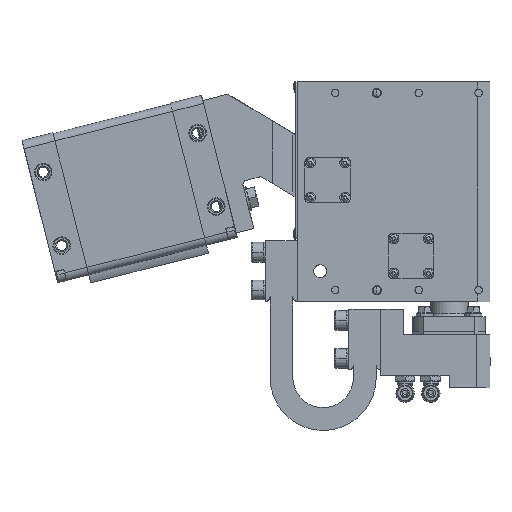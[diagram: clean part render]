
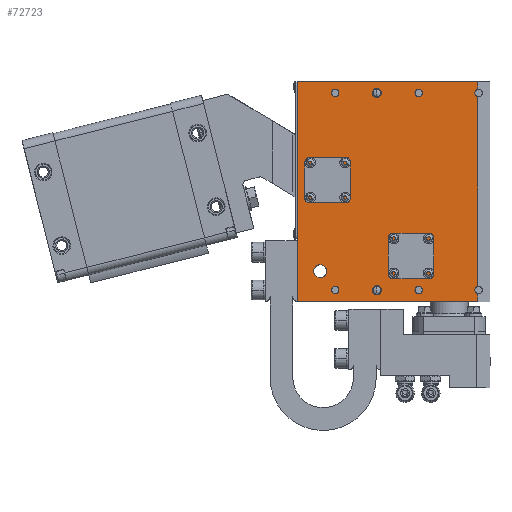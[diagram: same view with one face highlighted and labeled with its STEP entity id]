
A CAD part, front view. The second image highlights one B-rep face of the part: STEP entity #72723.
In plain terms, the highlighted planar face has unit normal (0, -1, 0).
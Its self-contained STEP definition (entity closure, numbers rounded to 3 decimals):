
#72495=AXIS2_PLACEMENT_3D('Circle Axis2P3D',#72493,#72494,$) ;
#72514=AXIS2_PLACEMENT_3D('Circle Axis2P3D',#72512,#72513,$) ;
#72527=AXIS2_PLACEMENT_3D('Plane Axis2P3D',#72524,#72525,#72526) ;
#72540=AXIS2_PLACEMENT_3D('Circle Axis2P3D',#72538,#72539,$) ;
#72547=AXIS2_PLACEMENT_3D('Circle Axis2P3D',#72545,#72546,$) ;
#72589=AXIS2_PLACEMENT_3D('Circle Axis2P3D',#72587,#72588,$) ;
#72596=AXIS2_PLACEMENT_3D('Circle Axis2P3D',#72594,#72595,$) ;
#72617=AXIS2_PLACEMENT_3D('Circle Axis2P3D',#72615,#72616,$) ;
#72626=AXIS2_PLACEMENT_3D('Circle Axis2P3D',#72624,#72625,$) ;
#72635=AXIS2_PLACEMENT_3D('Circle Axis2P3D',#72633,#72634,$) ;
#72644=AXIS2_PLACEMENT_3D('Circle Axis2P3D',#72642,#72643,$) ;
#72653=AXIS2_PLACEMENT_3D('Circle Axis2P3D',#72651,#72652,$) ;
#72662=AXIS2_PLACEMENT_3D('Circle Axis2P3D',#72660,#72661,$) ;
#72671=AXIS2_PLACEMENT_3D('Circle Axis2P3D',#72669,#72670,$) ;
#72680=AXIS2_PLACEMENT_3D('Circle Axis2P3D',#72678,#72679,$) ;
#72689=AXIS2_PLACEMENT_3D('Circle Axis2P3D',#72687,#72688,$) ;
#72698=AXIS2_PLACEMENT_3D('Circle Axis2P3D',#72696,#72697,$) ;
#72707=AXIS2_PLACEMENT_3D('Circle Axis2P3D',#72705,#72706,$) ;
#72716=AXIS2_PLACEMENT_3D('Circle Axis2P3D',#72714,#72715,$) ;
#72490=CARTESIAN_POINT('Vertex',(-81.24,-20.,17.946)) ;
#72493=CARTESIAN_POINT('Axis2P3D Location',(-85.,-20.,20.)) ;
#72497=CARTESIAN_POINT('Vertex',(-88.76,-20.,22.054)) ;
#72512=CARTESIAN_POINT('Axis2P3D Location',(-85.,-20.,20.)) ;
#72524=CARTESIAN_POINT('Axis2P3D Location',(0.,-20.,0.)) ;
#72529=CARTESIAN_POINT('Line Origine',(19.,-20.,72.5)) ;
#72533=CARTESIAN_POINT('Vertex',(19.,-20.,9.907)) ;
#72535=CARTESIAN_POINT('Vertex',(19.,-20.,135.093)) ;
#72538=CARTESIAN_POINT('Axis2P3D Location',(19.5,-20.,137.5)) ;
#72542=CARTESIAN_POINT('Vertex',(17.342,-20.,136.321)) ;
#72545=CARTESIAN_POINT('Axis2P3D Location',(19.5,-20.,137.5)) ;
#72549=CARTESIAN_POINT('Vertex',(19.,-20.,139.907)) ;
#72552=CARTESIAN_POINT('Line Origine',(19.,-20.,142.454)) ;
#72556=CARTESIAN_POINT('Vertex',(19.,-20.,145.)) ;
#72559=CARTESIAN_POINT('Line Origine',(-40.5,-20.,145.)) ;
#72563=CARTESIAN_POINT('Vertex',(-100.,-20.,145.)) ;
#72566=CARTESIAN_POINT('Line Origine',(-100.,-20.,72.5)) ;
#72570=CARTESIAN_POINT('Vertex',(-100.,-20.,0.)) ;
#72573=CARTESIAN_POINT('Line Origine',(-40.5,-20.,0.)) ;
#72577=CARTESIAN_POINT('Vertex',(19.,-20.,0.)) ;
#72580=CARTESIAN_POINT('Line Origine',(19.,-20.,2.546)) ;
#72584=CARTESIAN_POINT('Vertex',(19.,-20.,5.093)) ;
#72587=CARTESIAN_POINT('Axis2P3D Location',(19.5,-20.,7.5)) ;
#72591=CARTESIAN_POINT('Vertex',(17.342,-20.,6.321)) ;
#72594=CARTESIAN_POINT('Axis2P3D Location',(19.5,-20.,7.5)) ;
#72615=CARTESIAN_POINT('Axis2P3D Location',(-75.,-20.,7.5)) ;
#72619=CARTESIAN_POINT('Vertex',(-72.842,-20.,8.679)) ;
#72621=CARTESIAN_POINT('Vertex',(-77.158,-20.,6.321)) ;
#72624=CARTESIAN_POINT('Axis2P3D Location',(-75.,-20.,7.5)) ;
#72633=CARTESIAN_POINT('Axis2P3D Location',(-47.5,-20.,7.5)) ;
#72637=CARTESIAN_POINT('Vertex',(-44.867,-20.,8.938)) ;
#72639=CARTESIAN_POINT('Vertex',(-50.133,-20.,6.062)) ;
#72642=CARTESIAN_POINT('Axis2P3D Location',(-47.5,-20.,7.5)) ;
#72651=CARTESIAN_POINT('Axis2P3D Location',(-20.,-20.,7.5)) ;
#72655=CARTESIAN_POINT('Vertex',(-17.842,-20.,8.679)) ;
#72657=CARTESIAN_POINT('Vertex',(-22.158,-20.,6.321)) ;
#72660=CARTESIAN_POINT('Axis2P3D Location',(-20.,-20.,7.5)) ;
#72669=CARTESIAN_POINT('Axis2P3D Location',(-75.,-20.,137.5)) ;
#72673=CARTESIAN_POINT('Vertex',(-72.842,-20.,138.679)) ;
#72675=CARTESIAN_POINT('Vertex',(-77.158,-20.,136.321)) ;
#72678=CARTESIAN_POINT('Axis2P3D Location',(-75.,-20.,137.5)) ;
#72687=CARTESIAN_POINT('Axis2P3D Location',(-47.5,-20.,137.5)) ;
#72691=CARTESIAN_POINT('Vertex',(-44.867,-20.,138.938)) ;
#72693=CARTESIAN_POINT('Vertex',(-50.133,-20.,136.062)) ;
#72696=CARTESIAN_POINT('Axis2P3D Location',(-47.5,-20.,137.5)) ;
#72705=CARTESIAN_POINT('Axis2P3D Location',(-20.,-20.,137.5)) ;
#72709=CARTESIAN_POINT('Vertex',(-17.842,-20.,138.679)) ;
#72711=CARTESIAN_POINT('Vertex',(-22.158,-20.,136.321)) ;
#72714=CARTESIAN_POINT('Axis2P3D Location',(-20.,-20.,137.5)) ;
#72494=DIRECTION('Axis2P3D Direction',(0.,1.,0.)) ;
#72513=DIRECTION('Axis2P3D Direction',(0.,1.,0.)) ;
#72525=DIRECTION('Axis2P3D Direction',(0.,-1.,0.)) ;
#72526=DIRECTION('Axis2P3D XDirection',(1.,0.,0.)) ;
#72530=DIRECTION('Vector Direction',(0.,0.,1.)) ;
#72539=DIRECTION('Axis2P3D Direction',(0.,-1.,0.)) ;
#72546=DIRECTION('Axis2P3D Direction',(0.,-1.,0.)) ;
#72553=DIRECTION('Vector Direction',(0.,0.,1.)) ;
#72560=DIRECTION('Vector Direction',(-1.,0.,0.)) ;
#72567=DIRECTION('Vector Direction',(0.,0.,1.)) ;
#72574=DIRECTION('Vector Direction',(1.,0.,0.)) ;
#72581=DIRECTION('Vector Direction',(0.,0.,1.)) ;
#72588=DIRECTION('Axis2P3D Direction',(0.,-1.,0.)) ;
#72595=DIRECTION('Axis2P3D Direction',(0.,-1.,0.)) ;
#72616=DIRECTION('Axis2P3D Direction',(0.,-1.,0.)) ;
#72625=DIRECTION('Axis2P3D Direction',(0.,-1.,0.)) ;
#72634=DIRECTION('Axis2P3D Direction',(0.,-1.,0.)) ;
#72643=DIRECTION('Axis2P3D Direction',(0.,-1.,0.)) ;
#72652=DIRECTION('Axis2P3D Direction',(0.,-1.,0.)) ;
#72661=DIRECTION('Axis2P3D Direction',(0.,-1.,0.)) ;
#72670=DIRECTION('Axis2P3D Direction',(0.,-1.,0.)) ;
#72679=DIRECTION('Axis2P3D Direction',(0.,-1.,0.)) ;
#72688=DIRECTION('Axis2P3D Direction',(0.,-1.,0.)) ;
#72697=DIRECTION('Axis2P3D Direction',(0.,-1.,0.)) ;
#72706=DIRECTION('Axis2P3D Direction',(0.,-1.,0.)) ;
#72715=DIRECTION('Axis2P3D Direction',(0.,-1.,0.)) ;
#72531=VECTOR('Line Direction',#72530,1.) ;
#72554=VECTOR('Line Direction',#72553,1.) ;
#72561=VECTOR('Line Direction',#72560,1.) ;
#72568=VECTOR('Line Direction',#72567,1.) ;
#72575=VECTOR('Line Direction',#72574,1.) ;
#72582=VECTOR('Line Direction',#72581,1.) ;
#72600=ORIENTED_EDGE('',*,*,#72537,.T.) ;
#72601=ORIENTED_EDGE('',*,*,#72544,.F.) ;
#72602=ORIENTED_EDGE('',*,*,#72551,.F.) ;
#72603=ORIENTED_EDGE('',*,*,#72558,.T.) ;
#72604=ORIENTED_EDGE('',*,*,#72565,.T.) ;
#72605=ORIENTED_EDGE('',*,*,#72572,.T.) ;
#72606=ORIENTED_EDGE('',*,*,#72579,.T.) ;
#72607=ORIENTED_EDGE('',*,*,#72586,.T.) ;
#72608=ORIENTED_EDGE('',*,*,#72593,.F.) ;
#72609=ORIENTED_EDGE('',*,*,#72598,.F.) ;
#72612=ORIENTED_EDGE('',*,*,#72516,.F.) ;
#72613=ORIENTED_EDGE('',*,*,#72499,.F.) ;
#72630=ORIENTED_EDGE('',*,*,#72623,.F.) ;
#72631=ORIENTED_EDGE('',*,*,#72628,.F.) ;
#72648=ORIENTED_EDGE('',*,*,#72641,.F.) ;
#72649=ORIENTED_EDGE('',*,*,#72646,.F.) ;
#72666=ORIENTED_EDGE('',*,*,#72659,.F.) ;
#72667=ORIENTED_EDGE('',*,*,#72664,.F.) ;
#72684=ORIENTED_EDGE('',*,*,#72677,.F.) ;
#72685=ORIENTED_EDGE('',*,*,#72682,.F.) ;
#72702=ORIENTED_EDGE('',*,*,#72695,.F.) ;
#72703=ORIENTED_EDGE('',*,*,#72700,.F.) ;
#72720=ORIENTED_EDGE('',*,*,#72713,.F.) ;
#72721=ORIENTED_EDGE('',*,*,#72718,.F.) ;
#72614=FACE_BOUND('',#72611,.T.) ;
#72632=FACE_BOUND('',#72629,.T.) ;
#72650=FACE_BOUND('',#72647,.T.) ;
#72668=FACE_BOUND('',#72665,.T.) ;
#72686=FACE_BOUND('',#72683,.T.) ;
#72704=FACE_BOUND('',#72701,.T.) ;
#72722=FACE_BOUND('',#72719,.T.) ;
#72723=ADVANCED_FACE('IK008-1-012.1\\PartBody',(#72610,#72614,#72632,#72650,#72668,#72686,#72704,#72722),#72528,.T.) ;
#72496=CIRCLE('generated circle',#72495,4.285) ;
#72515=CIRCLE('generated circle',#72514,4.285) ;
#72541=CIRCLE('generated circle',#72540,2.459) ;
#72548=CIRCLE('generated circle',#72547,2.459) ;
#72590=CIRCLE('generated circle',#72589,2.459) ;
#72597=CIRCLE('generated circle',#72596,2.459) ;
#72618=CIRCLE('generated circle',#72617,2.459) ;
#72627=CIRCLE('generated circle',#72626,2.459) ;
#72636=CIRCLE('generated circle',#72635,3.) ;
#72645=CIRCLE('generated circle',#72644,3.) ;
#72654=CIRCLE('generated circle',#72653,2.459) ;
#72663=CIRCLE('generated circle',#72662,2.459) ;
#72672=CIRCLE('generated circle',#72671,2.459) ;
#72681=CIRCLE('generated circle',#72680,2.459) ;
#72690=CIRCLE('generated circle',#72689,3.) ;
#72699=CIRCLE('generated circle',#72698,3.) ;
#72708=CIRCLE('generated circle',#72707,2.459) ;
#72717=CIRCLE('generated circle',#72716,2.459) ;
#72499=EDGE_CURVE('',#72491,#72498,#72496,.F.) ;
#72516=EDGE_CURVE('',#72498,#72491,#72515,.F.) ;
#72537=EDGE_CURVE('',#72534,#72536,#72532,.T.) ;
#72544=EDGE_CURVE('',#72543,#72536,#72541,.T.) ;
#72551=EDGE_CURVE('',#72550,#72543,#72548,.T.) ;
#72558=EDGE_CURVE('',#72550,#72557,#72555,.T.) ;
#72565=EDGE_CURVE('',#72557,#72564,#72562,.T.) ;
#72572=EDGE_CURVE('',#72564,#72571,#72569,.F.) ;
#72579=EDGE_CURVE('',#72571,#72578,#72576,.T.) ;
#72586=EDGE_CURVE('',#72578,#72585,#72583,.T.) ;
#72593=EDGE_CURVE('',#72592,#72585,#72590,.T.) ;
#72598=EDGE_CURVE('',#72534,#72592,#72597,.T.) ;
#72623=EDGE_CURVE('',#72620,#72622,#72618,.T.) ;
#72628=EDGE_CURVE('',#72622,#72620,#72627,.T.) ;
#72641=EDGE_CURVE('',#72638,#72640,#72636,.T.) ;
#72646=EDGE_CURVE('',#72640,#72638,#72645,.T.) ;
#72659=EDGE_CURVE('',#72656,#72658,#72654,.T.) ;
#72664=EDGE_CURVE('',#72658,#72656,#72663,.T.) ;
#72677=EDGE_CURVE('',#72674,#72676,#72672,.T.) ;
#72682=EDGE_CURVE('',#72676,#72674,#72681,.T.) ;
#72695=EDGE_CURVE('',#72692,#72694,#72690,.T.) ;
#72700=EDGE_CURVE('',#72694,#72692,#72699,.T.) ;
#72713=EDGE_CURVE('',#72710,#72712,#72708,.T.) ;
#72718=EDGE_CURVE('',#72712,#72710,#72717,.T.) ;
#72599=EDGE_LOOP('',(#72600,#72601,#72602,#72603,#72604,#72605,#72606,#72607,#72608,#72609)) ;
#72611=EDGE_LOOP('',(#72612,#72613)) ;
#72629=EDGE_LOOP('',(#72630,#72631)) ;
#72647=EDGE_LOOP('',(#72648,#72649)) ;
#72665=EDGE_LOOP('',(#72666,#72667)) ;
#72683=EDGE_LOOP('',(#72684,#72685)) ;
#72701=EDGE_LOOP('',(#72702,#72703)) ;
#72719=EDGE_LOOP('',(#72720,#72721)) ;
#72610=FACE_OUTER_BOUND('',#72599,.T.) ;
#72532=LINE('Line',#72529,#72531) ;
#72555=LINE('Line',#72552,#72554) ;
#72562=LINE('Line',#72559,#72561) ;
#72569=LINE('Line',#72566,#72568) ;
#72576=LINE('Line',#72573,#72575) ;
#72583=LINE('Line',#72580,#72582) ;
#72528=PLANE('Plane',#72527) ;
#72491=VERTEX_POINT('',#72490) ;
#72498=VERTEX_POINT('',#72497) ;
#72534=VERTEX_POINT('',#72533) ;
#72536=VERTEX_POINT('',#72535) ;
#72543=VERTEX_POINT('',#72542) ;
#72550=VERTEX_POINT('',#72549) ;
#72557=VERTEX_POINT('',#72556) ;
#72564=VERTEX_POINT('',#72563) ;
#72571=VERTEX_POINT('',#72570) ;
#72578=VERTEX_POINT('',#72577) ;
#72585=VERTEX_POINT('',#72584) ;
#72592=VERTEX_POINT('',#72591) ;
#72620=VERTEX_POINT('',#72619) ;
#72622=VERTEX_POINT('',#72621) ;
#72638=VERTEX_POINT('',#72637) ;
#72640=VERTEX_POINT('',#72639) ;
#72656=VERTEX_POINT('',#72655) ;
#72658=VERTEX_POINT('',#72657) ;
#72674=VERTEX_POINT('',#72673) ;
#72676=VERTEX_POINT('',#72675) ;
#72692=VERTEX_POINT('',#72691) ;
#72694=VERTEX_POINT('',#72693) ;
#72710=VERTEX_POINT('',#72709) ;
#72712=VERTEX_POINT('',#72711) ;
